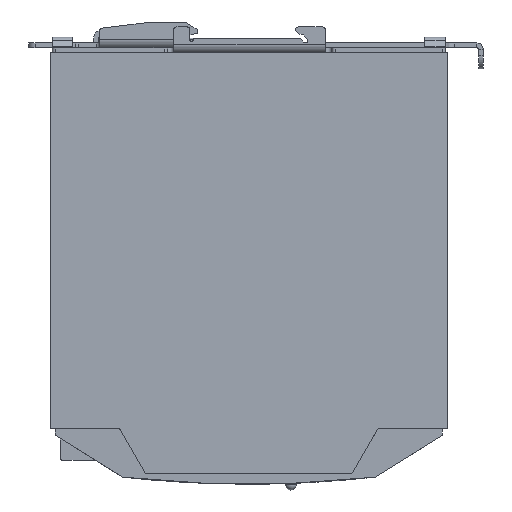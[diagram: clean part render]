
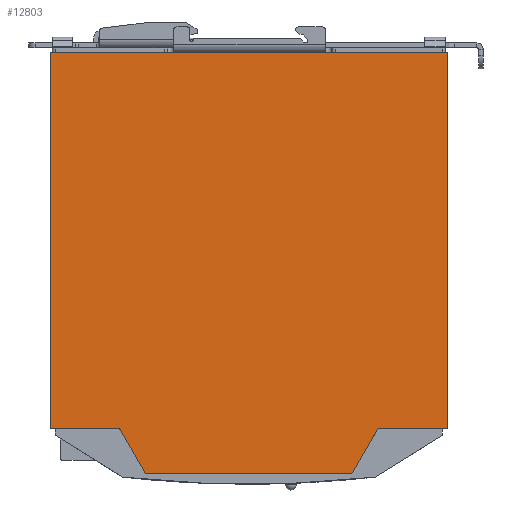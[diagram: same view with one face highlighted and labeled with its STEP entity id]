
A CAD part, front view. The second image highlights one B-rep face of the part: STEP entity #12803.
In plain terms, the highlighted planar face has unit normal (0, -1, 0).
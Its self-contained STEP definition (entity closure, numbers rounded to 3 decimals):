
#576=LINE('',#21043,#1753);
#661=LINE('',#21299,#1838);
#677=LINE('',#21341,#1854);
#693=LINE('',#21469,#1870);
#716=LINE('',#21533,#1893);
#732=LINE('',#21593,#1909);
#736=LINE('',#21600,#1913);
#738=LINE('',#21603,#1915);
#1753=VECTOR('',#15726,16.177);
#1838=VECTOR('',#15985,21.4);
#1854=VECTOR('',#16025,16.177);
#1870=VECTOR('',#16081,64.023);
#1893=VECTOR('',#16136,21.4);
#1909=VECTOR('',#16198,116.6);
#1913=VECTOR('',#16204,116.6);
#1915=VECTOR('',#16208,123.);
#2761=PLANE('',#13800);
#3645=FACE_OUTER_BOUND('',#4410,.T.);
#4410=EDGE_LOOP('',(#9931,#9932,#9933,#9934,#9935,#9936,#9937,#9938));
#5680=VERTEX_POINT('',#21040);
#5681=VERTEX_POINT('',#21042);
#5762=VERTEX_POINT('',#21292);
#5765=VERTEX_POINT('',#21297);
#5779=VERTEX_POINT('',#21340);
#5808=VERTEX_POINT('',#21532);
#5829=VERTEX_POINT('',#21592);
#5831=VERTEX_POINT('',#21598);
#7042=EDGE_CURVE('',#5680,#5681,#576,.T.);
#7161=EDGE_CURVE('',#5765,#5762,#661,.T.);
#7178=EDGE_CURVE('',#5762,#5779,#677,.T.);
#7203=EDGE_CURVE('',#5779,#5680,#693,.T.);
#7230=EDGE_CURVE('',#5681,#5808,#716,.T.);
#7256=EDGE_CURVE('',#5808,#5829,#732,.T.);
#7260=EDGE_CURVE('',#5831,#5765,#736,.T.);
#7262=EDGE_CURVE('',#5829,#5831,#738,.T.);
#9931=ORIENTED_EDGE('',*,*,#7178,.F.);
#9932=ORIENTED_EDGE('',*,*,#7161,.F.);
#9933=ORIENTED_EDGE('',*,*,#7260,.F.);
#9934=ORIENTED_EDGE('',*,*,#7262,.F.);
#9935=ORIENTED_EDGE('',*,*,#7256,.F.);
#9936=ORIENTED_EDGE('',*,*,#7230,.F.);
#9937=ORIENTED_EDGE('',*,*,#7042,.F.);
#9938=ORIENTED_EDGE('',*,*,#7203,.F.);
#12803=ADVANCED_FACE('',(#3645),#2761,.F.);
#13800=AXIS2_PLACEMENT_3D('',#21700,#16275,#16276);
#15726=DIRECTION('',(-0.5,0.,0.866));
#15985=DIRECTION('',(-1.,0.,0.));
#16025=DIRECTION('',(-0.5,0.,-0.866));
#16081=DIRECTION('',(-1.,0.,0.));
#16136=DIRECTION('',(-1.,0.,0.));
#16198=DIRECTION('',(0.,0.,1.));
#16204=DIRECTION('',(0.,0.,-1.));
#16208=DIRECTION('',(1.,0.,0.));
#16275=DIRECTION('center_axis',(0.,1.,0.));
#16276=DIRECTION('ref_axis',(0.,0.,1.));
#21040=CARTESIAN_POINT('',(-30.814,-32.761,-68.453));
#21042=CARTESIAN_POINT('',(-38.902,-32.761,-54.443));
#21043=CARTESIAN_POINT('',(-30.814,-32.761,-68.453));
#21292=CARTESIAN_POINT('',(41.298,-32.761,-54.443));
#21297=CARTESIAN_POINT('',(62.698,-32.761,-54.443));
#21299=CARTESIAN_POINT('',(62.698,-32.761,-54.443));
#21340=CARTESIAN_POINT('',(33.209,-32.761,-68.453));
#21341=CARTESIAN_POINT('',(41.298,-32.761,-54.443));
#21469=CARTESIAN_POINT('',(33.209,-32.761,-68.453));
#21532=CARTESIAN_POINT('',(-60.302,-32.761,-54.443));
#21533=CARTESIAN_POINT('',(-38.902,-32.761,-54.443));
#21592=CARTESIAN_POINT('',(-60.302,-32.761,62.157));
#21593=CARTESIAN_POINT('',(-60.302,-32.761,-54.443));
#21598=CARTESIAN_POINT('',(62.698,-32.761,62.157));
#21600=CARTESIAN_POINT('',(62.698,-32.761,62.157));
#21603=CARTESIAN_POINT('',(-60.302,-32.761,62.157));
#21700=CARTESIAN_POINT('Origin',(1.198,-32.761,-60.806));
